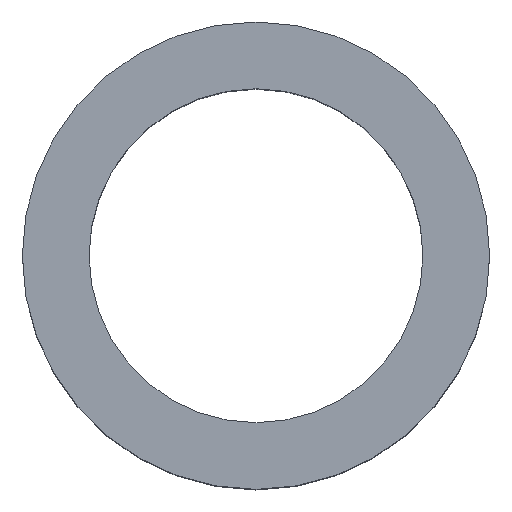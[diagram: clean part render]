
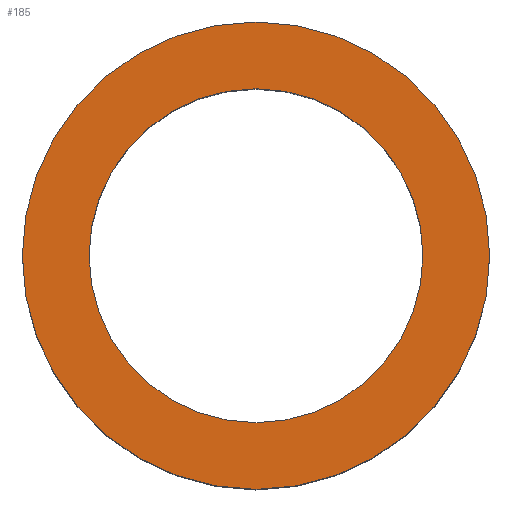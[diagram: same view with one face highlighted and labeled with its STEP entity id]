
A CAD part, top view. The second image highlights one B-rep face of the part: STEP entity #185.
In plain terms, the highlighted planar face has unit normal (0, 0, 1).
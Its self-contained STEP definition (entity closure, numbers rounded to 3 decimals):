
#185=ADVANCED_FACE('',(#211,#212),#209,.T.);
#209=PLANE('',#442);
#211=FACE_BOUND('',#215,.T.);
#212=FACE_BOUND('',#216,.T.);
#215=EDGE_LOOP('',(#241,#242));
#216=EDGE_LOOP('',(#243,#244));
#241=ORIENTED_EDGE('',*,*,#363,.T.);
#242=ORIENTED_EDGE('',*,*,#364,.T.);
#243=ORIENTED_EDGE('',*,*,#365,.F.);
#244=ORIENTED_EDGE('',*,*,#366,.F.);
#337=VERTEX_POINT('',#614);
#338=VERTEX_POINT('',#615);
#339=VERTEX_POINT('',#618);
#340=VERTEX_POINT('',#619);
#363=EDGE_CURVE('',#337,#338,#411,.T.);
#364=EDGE_CURVE('',#338,#337,#412,.T.);
#365=EDGE_CURVE('',#339,#340,#413,.T.);
#366=EDGE_CURVE('',#340,#339,#414,.T.);
#411=CIRCLE('',#438,7.);
#412=CIRCLE('',#439,7.);
#413=CIRCLE('',#440,5.);
#414=CIRCLE('',#441,5.);
#438=AXIS2_PLACEMENT_3D('',#613,#490,#491);
#439=AXIS2_PLACEMENT_3D('',#616,#492,#493);
#440=AXIS2_PLACEMENT_3D('',#617,#494,#495);
#441=AXIS2_PLACEMENT_3D('',#620,#496,#497);
#442=AXIS2_PLACEMENT_3D('',#621,#498,#499);
#490=DIRECTION('',(0.,0.,1.));
#491=DIRECTION('',(0.,-1.,0.));
#492=DIRECTION('',(0.,0.,1.));
#493=DIRECTION('',(0.,1.,0.));
#494=DIRECTION('',(0.,0.,1.));
#495=DIRECTION('',(0.,1.,0.));
#496=DIRECTION('',(0.,0.,1.));
#497=DIRECTION('',(0.,-1.,0.));
#498=DIRECTION('',(0.,0.,1.));
#499=DIRECTION('',(0.,-1.,0.));
#613=CARTESIAN_POINT('',(0.,0.,10.));
#614=CARTESIAN_POINT('',(7.,0.,10.));
#615=CARTESIAN_POINT('',(-7.,0.,10.));
#616=CARTESIAN_POINT('',(0.,0.,10.));
#617=CARTESIAN_POINT('',(0.,0.,10.));
#618=CARTESIAN_POINT('',(-5.,0.,10.));
#619=CARTESIAN_POINT('',(5.,0.,10.));
#620=CARTESIAN_POINT('',(0.,0.,10.));
#621=CARTESIAN_POINT('',(0.,0.,10.));
